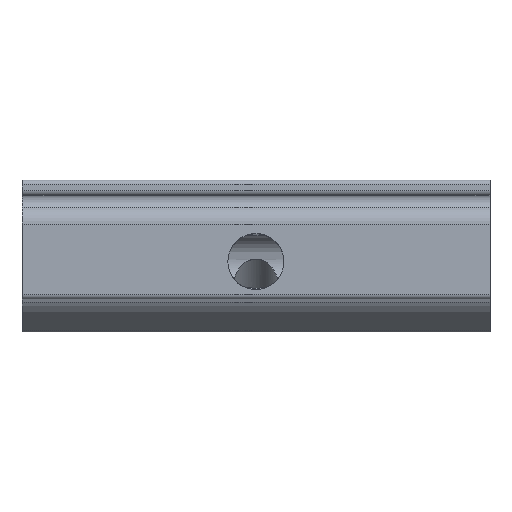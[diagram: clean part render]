
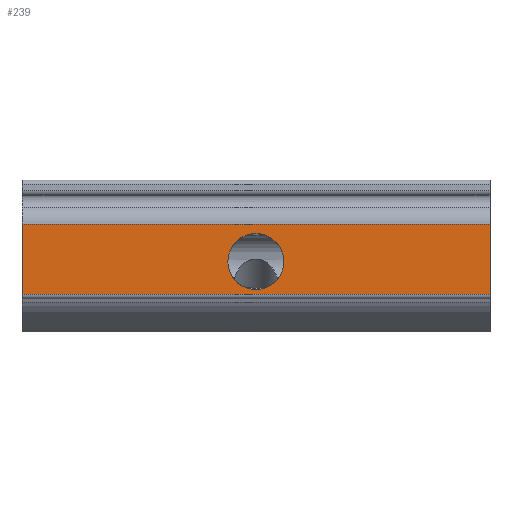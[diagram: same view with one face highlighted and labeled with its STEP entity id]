
A CAD part, top view. The second image highlights one B-rep face of the part: STEP entity #239.
In plain terms, the highlighted planar face has unit normal (0, 0, 1).
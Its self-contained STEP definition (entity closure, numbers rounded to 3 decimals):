
#239 = ADVANCED_FACE( '', ( #509, #510 ), #511, .T. );
#509 = FACE_OUTER_BOUND( '', #779, .T. );
#510 = FACE_BOUND( '', #780, .T. );
#511 = PLANE( '', #781 );
#779 = EDGE_LOOP( '', ( #1477, #1478, #1479, #1480 ) );
#780 = EDGE_LOOP( '', ( #1481 ) );
#781 = AXIS2_PLACEMENT_3D( '', #1482, #1483, #1484 );
#1477 = ORIENTED_EDGE( '', *, *, #1683, .T. );
#1478 = ORIENTED_EDGE( '', *, *, #1792, .F. );
#1479 = ORIENTED_EDGE( '', *, *, #1595, .F. );
#1480 = ORIENTED_EDGE( '', *, *, #1690, .T. );
#1481 = ORIENTED_EDGE( '', *, *, #1604, .T. );
#1482 = CARTESIAN_POINT( '', ( 600.171, -548.13, 85.323 ) );
#1483 = DIRECTION( '', ( 0., 0., 1. ) );
#1484 = DIRECTION( '', ( 1., 0., 0. ) );
#1595 = EDGE_CURVE( '', #1932, #1933, #1934, .T. );
#1604 = EDGE_CURVE( '', #1946, #1946, #1947, .T. );
#1683 = EDGE_CURVE( '', #2078, #2076, #2079, .T. );
#1690 = EDGE_CURVE( '', #1932, #2078, #2090, .T. );
#1792 = EDGE_CURVE( '', #1933, #2076, #2224, .T. );
#1932 = VERTEX_POINT( '', #3027 );
#1933 = VERTEX_POINT( '', #3028 );
#1934 = LINE( '', #3029, #3030 );
#1946 = VERTEX_POINT( '', #3043 );
#1947 = CIRCLE( '', #3044, 12.06 );
#2076 = VERTEX_POINT( '', #3224 );
#2078 = VERTEX_POINT( '', #3226 );
#2079 = LINE( '', #3227, #3228 );
#2090 = LINE( '', #3240, #3241 );
#2224 = LINE( '', #3454, #3455 );
#3027 = CARTESIAN_POINT( '', ( 554.171, -517.023, 85.323 ) );
#3028 = CARTESIAN_POINT( '', ( 755.271, -517.023, 85.323 ) );
#3029 = CARTESIAN_POINT( '', ( 554.17, -517.023, 85.323 ) );
#3030 = VECTOR( '', #3541, 1000. );
#3043 = CARTESIAN_POINT( '', ( 654.671, -545.19, 85.323 ) );
#3044 = AXIS2_PLACEMENT_3D( '', #3558, #3559, #3560 );
#3224 = CARTESIAN_POINT( '', ( 755.271, -547.203, 85.323 ) );
#3226 = CARTESIAN_POINT( '', ( 554.171, -547.203, 85.323 ) );
#3227 = CARTESIAN_POINT( '', ( 600.171, -547.203, 85.323 ) );
#3228 = VECTOR( '', #3668, 1000. );
#3240 = CARTESIAN_POINT( '', ( 554.171, -548.13, 85.323 ) );
#3241 = VECTOR( '', #3682, 1000. );
#3454 = CARTESIAN_POINT( '', ( 755.271, -548.13, 85.323 ) );
#3455 = VECTOR( '', #3823, 1000. );
#3541 = DIRECTION( '', ( 1., 0., 0. ) );
#3558 = CARTESIAN_POINT( '', ( 654.671, -533.13, 85.323 ) );
#3559 = DIRECTION( '', ( 0., 0., -1. ) );
#3560 = DIRECTION( '', ( 0., -1., 0. ) );
#3668 = DIRECTION( '', ( 1., 0., 0. ) );
#3682 = DIRECTION( '', ( 0., -1., 0. ) );
#3823 = DIRECTION( '', ( 0., -1., 0. ) );
